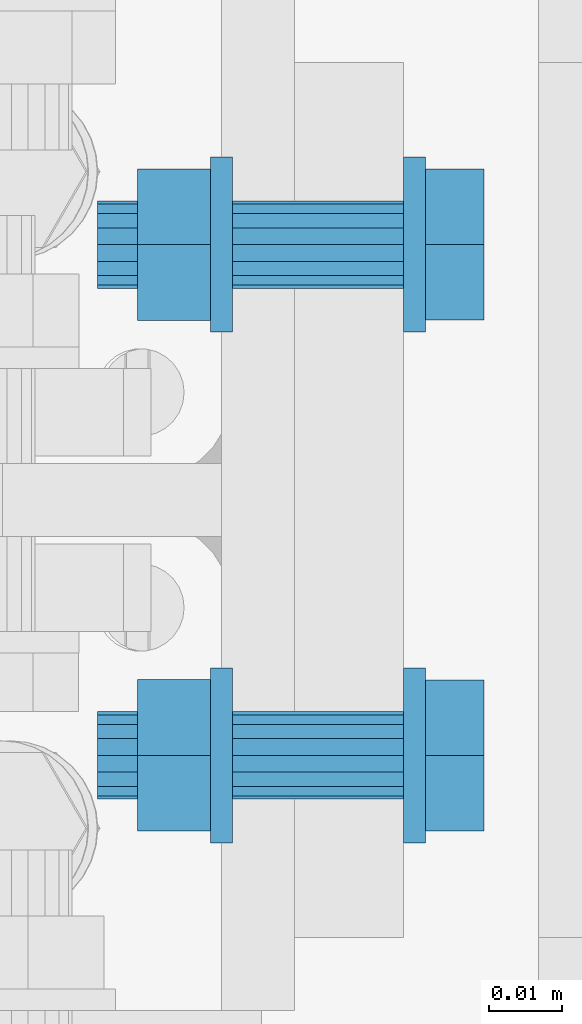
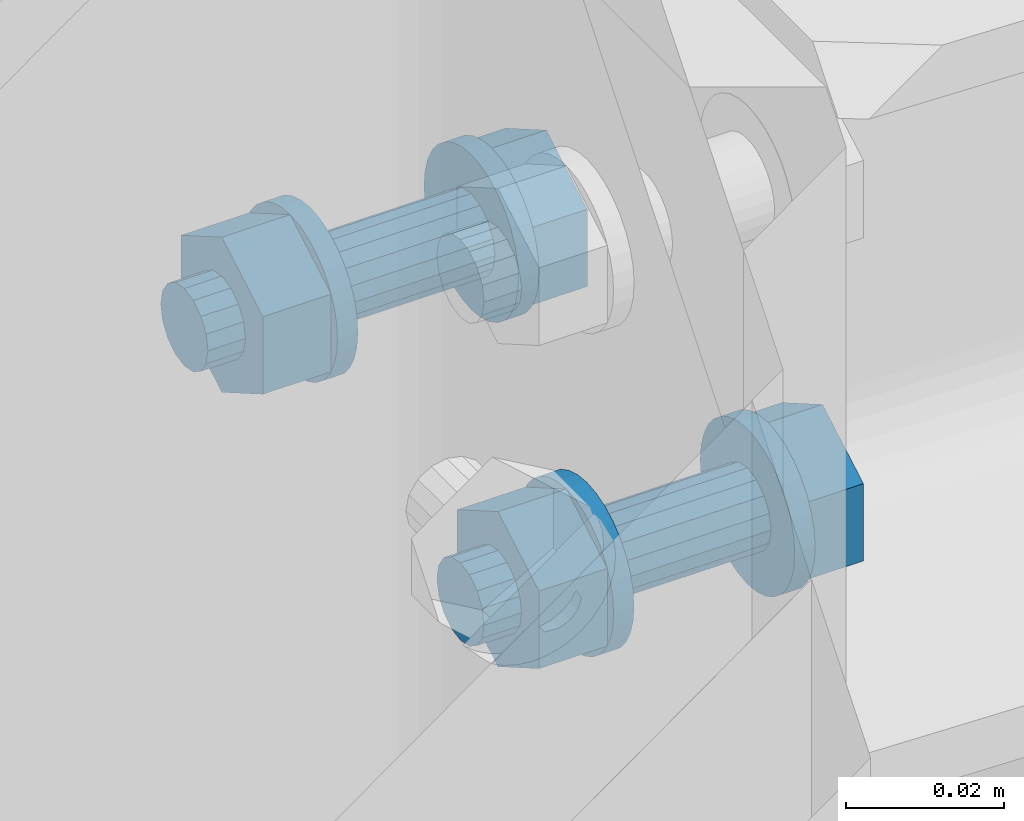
# One storey, part 333 of 476: 2 mechanical fasteners.
"""IFC2X3 building model written with IfcOpenShell, lengths in millimetres."""

from ifc_helpers import new_model, entity, si_unit, converted_unit, origin_with_axes, place, context, project, spatial, faceted_brep, element, save


model = new_model("IFC2X3")

# Units and contexts
model_context = context("Model", 3, precision=1e-09, world=origin_with_axes())
ifc_project = project(units=[si_unit("LENGTHUNIT", "METRE", prefix="MILLI"), si_unit("AREAUNIT", "SQUARE_METRE"), si_unit("VOLUMEUNIT", "CUBIC_METRE"), converted_unit("PLANEANGLEUNIT", "DEGREE", entity("IfcPlaneAngleMeasure", 0.01745329), si_unit("PLANEANGLEUNIT", "RADIAN"), dimensions=[0, 0, 0, 0, 0, 0, 0])], contexts=[model_context])

# Site, building, storey
site_placement = place(None, origin_with_axes())
site = spatial("IfcSite", under=ifc_project, at=site_placement, Name="mKR Teilneubau & Sanierung BA1 - Ostfildern", CompositionType="ELEMENT")
building_placement = place(site_placement, origin_with_axes())
building = spatial("IfcBuilding", under=site, at=building_placement, Name="Struktur 1", CompositionType="ELEMENT")
storey_placement = place(building_placement, origin_with_axes())
storey = spatial("IfcBuildingStorey", under=building, at=storey_placement, Name="Default Storey", CompositionType="ELEMENT", Elevation=0.0)

# Mechanical fasteners
mechanical_fastener_1_placement = place(None, origin_with_axes())
element("IfcMechanicalFastener", 1, at=mechanical_fastener_1_placement, inside=storey, ObjectType="Bolt#6", NominalDiameter=12.0, NominalLength=45.0, context=model_context, shape_type="Brep", body=[
    faceted_brep([(22050.108764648, -13608.67387897, 3040.630813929), (22047.108764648, -13608.67387897, 3040.630813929), (22047.108764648, -13608.904455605, 3042.971897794), (22050.108764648, -13608.904455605, 3042.971897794), (22047.108764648, -13609.58732458, 3045.223015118), (22050.108764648, -13609.58732458, 3045.223015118), (22047.108764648, -13610.696243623, 3047.297656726), (22050.108764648, -13610.696243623, 3047.297656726), (22047.108764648, -13612.188597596, 3049.116095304), (22050.108764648, -13612.188597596, 3049.116095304), (22047.108764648, -13614.007036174, 3050.608449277), (22050.108764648, -13614.007036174, 3050.608449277), (22047.108764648, -13616.081677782, 3051.717368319), (22050.108764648, -13616.081677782, 3051.717368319), (22047.108764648, -13618.332795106, 3052.400237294), (22050.108764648, -13618.332795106, 3052.400237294), (22047.108764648, -13620.67387897, 3052.630813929), (22050.108764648, -13620.67387897, 3052.630813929), (22047.108764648, -13623.014962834, 3052.400237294), (22050.108764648, -13623.014962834, 3052.400237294), (22047.108764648, -13625.266080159, 3051.717368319), (22050.108764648, -13625.266080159, 3051.717368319), (22047.108764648, -13627.340721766, 3050.608449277), (22050.108764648, -13627.340721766, 3050.608449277), (22047.108764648, -13629.159160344, 3049.116095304), (22050.108764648, -13629.159160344, 3049.116095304), (22047.108764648, -13630.651514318, 3047.297656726), (22050.108764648, -13630.651514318, 3047.297656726), (22047.108764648, -13631.76043336, 3045.223015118), (22050.108764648, -13631.76043336, 3045.223015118), (22047.108764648, -13632.443302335, 3042.971897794), (22050.108764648, -13632.443302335, 3042.971897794), (22047.108764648, -13632.67387897, 3040.630813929), (22050.108764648, -13632.67387897, 3040.630813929), (22047.108764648, -13632.443302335, 3038.289730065), (22050.108764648, -13632.443302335, 3038.289730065), (22047.108764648, -13631.76043336, 3036.038612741), (22050.108764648, -13631.76043336, 3036.038612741), (22047.108764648, -13630.651514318, 3033.963971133), (22050.108764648, -13630.651514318, 3033.963971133), (22047.108764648, -13629.159160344, 3032.145532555), (22050.108764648, -13629.159160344, 3032.145532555), (22047.108764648, -13627.340721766, 3030.653178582), (22050.108764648, -13627.340721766, 3030.653178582), (22047.108764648, -13625.266080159, 3029.544259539), (22050.108764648, -13625.266080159, 3029.544259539), (22047.108764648, -13623.014962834, 3028.861390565), (22050.108764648, -13623.014962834, 3028.861390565), (22047.108764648, -13620.67387897, 3028.630813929), (22050.108764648, -13620.67387897, 3028.630813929), (22047.108764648, -13618.332795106, 3028.861390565), (22050.108764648, -13618.332795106, 3028.861390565), (22047.108764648, -13616.081677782, 3029.544259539), (22050.108764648, -13616.081677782, 3029.544259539), (22047.108764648, -13614.007036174, 3030.653178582), (22050.108764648, -13614.007036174, 3030.653178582), (22047.108764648, -13612.188597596, 3032.145532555), (22050.108764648, -13612.188597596, 3032.145532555), (22047.108764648, -13610.696243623, 3033.963971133), (22050.108764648, -13610.696243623, 3033.963971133), (22047.108764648, -13609.58732458, 3036.038612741), (22050.108764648, -13609.58732458, 3036.038612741), (22047.108764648, -13608.904455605, 3038.289730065), (22050.108764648, -13608.904455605, 3038.289730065)], [[[0, 1, 2, 3]], [[3, 2, 4, 5]], [[5, 4, 6, 7]], [[7, 6, 8, 9]], [[9, 8, 10, 11]], [[11, 10, 12, 13]], [[13, 12, 14, 15]], [[15, 14, 16, 17]], [[17, 16, 18, 19]], [[19, 18, 20, 21]], [[21, 20, 22, 23]], [[23, 22, 24, 25]], [[25, 24, 26, 27]], [[27, 26, 28, 29]], [[29, 28, 30, 31]], [[31, 30, 32, 33]], [[33, 32, 34, 35]], [[35, 34, 36, 37]], [[37, 36, 38, 39]], [[39, 38, 40, 41]], [[41, 40, 42, 43]], [[43, 42, 44, 45]], [[45, 44, 46, 47]], [[47, 46, 48, 49]], [[49, 48, 50, 51]], [[51, 50, 52, 53]], [[53, 52, 54, 55]], [[55, 54, 56, 57]], [[57, 56, 58, 59]], [[59, 58, 60, 61]], [[61, 60, 62, 63]], [[63, 62, 1, 0]], [[0, 3, 5, 7, 9, 11, 13, 15, 17, 19, 21, 23, 25, 27, 29, 31, 33, 35, 37, 39, 41, 43, 45, 47, 49, 51, 53, 55, 57, 59, 61, 63]], [[1, 62, 60, 58, 56, 54, 52, 50, 48, 46, 44, 42, 40, 38, 36, 34, 32, 30, 28, 26, 24, 22, 20, 18, 16, 14, 12, 10, 8, 6, 4, 2]]]),
    faceted_brep([(22050.108764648, -13631.027212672, 3046.608313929), (22058.108764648, -13631.027212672, 3046.608313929), (22058.108764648, -13620.67387897, 3052.585813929), (22050.108764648, -13620.67387897, 3052.585813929), (22058.108764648, -13610.320545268, 3046.608313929), (22050.108764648, -13610.320545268, 3046.608313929), (22058.108764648, -13610.320545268, 3034.653313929), (22050.108764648, -13610.320545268, 3034.653313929), (22058.108764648, -13620.67387897, 3028.675813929), (22050.108764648, -13620.67387897, 3028.675813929), (22058.108764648, -13631.027212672, 3034.653313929), (22050.108764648, -13631.027212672, 3034.653313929)], [[[0, 1, 2, 3]], [[3, 2, 4, 5]], [[5, 4, 6, 7]], [[7, 6, 8, 9]], [[9, 8, 10, 11]], [[11, 10, 1, 0]], [[4, 2, 1, 10, 8, 6]], [[0, 3, 5, 7, 9, 11]]]),
    faceted_brep([(22047.108764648, -13614.67387897, 3040.630813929), (22023.608764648, -13614.67387897, 3040.630813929), (22023.608764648, -13615.130601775, 3042.926914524), (22047.108764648, -13615.130601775, 3042.926914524), (22023.608764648, -13616.431238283, 3044.873454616), (22047.108764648, -13616.431238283, 3044.873454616), (22023.608764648, -13618.377778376, 3046.174091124), (22047.108764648, -13618.377778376, 3046.174091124), (22023.608764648, -13620.67387897, 3046.630813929), (22047.108764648, -13620.67387897, 3046.630813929), (22023.608764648, -13622.969979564, 3046.174091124), (22047.108764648, -13622.969979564, 3046.174091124), (22023.608764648, -13624.916519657, 3044.873454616), (22047.108764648, -13624.916519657, 3044.873454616), (22023.608764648, -13626.217156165, 3042.926914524), (22047.108764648, -13626.217156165, 3042.926914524), (22023.608764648, -13626.67387897, 3040.630813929), (22047.108764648, -13626.67387897, 3040.630813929), (22023.608764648, -13626.217156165, 3038.334713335), (22047.108764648, -13626.217156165, 3038.334713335), (22023.608764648, -13624.916519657, 3036.388173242), (22047.108764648, -13624.916519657, 3036.388173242), (22023.608764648, -13622.969979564, 3035.087536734), (22047.108764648, -13622.969979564, 3035.087536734), (22023.608764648, -13620.67387897, 3034.630813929), (22047.108764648, -13620.67387897, 3034.630813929), (22023.608764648, -13618.377778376, 3035.087536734), (22047.108764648, -13618.377778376, 3035.087536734), (22023.608764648, -13616.431238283, 3036.388173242), (22047.108764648, -13616.431238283, 3036.388173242), (22023.608764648, -13615.130601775, 3038.334713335), (22047.108764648, -13615.130601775, 3038.334713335)], [[[0, 1, 2, 3]], [[3, 2, 4, 5]], [[5, 4, 6, 7]], [[7, 6, 8, 9]], [[9, 8, 10, 11]], [[11, 10, 12, 13]], [[13, 12, 14, 15]], [[15, 14, 16, 17]], [[17, 16, 18, 19]], [[19, 18, 20, 21]], [[21, 20, 22, 23]], [[23, 22, 24, 25]], [[25, 24, 26, 27]], [[27, 26, 28, 29]], [[29, 28, 30, 31]], [[31, 30, 1, 0]], [[0, 3, 5, 7, 9, 11, 13, 15, 17, 19, 21, 23, 25, 27, 29, 31]], [[1, 30, 28, 26, 24, 22, 20, 18, 16, 14, 12, 10, 8, 6, 4, 2]]]),
    faceted_brep([(22023.608764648, -13608.67387897, 3040.630813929), (22020.608764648, -13608.67387897, 3040.630813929), (22020.608764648, -13608.904455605, 3042.971897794), (22023.608764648, -13608.904455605, 3042.971897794), (22020.608764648, -13609.58732458, 3045.223015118), (22023.608764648, -13609.58732458, 3045.223015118), (22020.608764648, -13610.696243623, 3047.297656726), (22023.608764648, -13610.696243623, 3047.297656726), (22020.608764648, -13612.188597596, 3049.116095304), (22023.608764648, -13612.188597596, 3049.116095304), (22020.608764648, -13614.007036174, 3050.608449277), (22023.608764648, -13614.007036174, 3050.608449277), (22020.608764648, -13616.081677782, 3051.717368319), (22023.608764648, -13616.081677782, 3051.717368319), (22020.608764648, -13618.332795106, 3052.400237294), (22023.608764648, -13618.332795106, 3052.400237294), (22020.608764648, -13620.67387897, 3052.630813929), (22023.608764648, -13620.67387897, 3052.630813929), (22020.608764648, -13623.014962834, 3052.400237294), (22023.608764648, -13623.014962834, 3052.400237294), (22020.608764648, -13625.266080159, 3051.717368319), (22023.608764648, -13625.266080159, 3051.717368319), (22020.608764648, -13627.340721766, 3050.608449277), (22023.608764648, -13627.340721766, 3050.608449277), (22020.608764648, -13629.159160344, 3049.116095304), (22023.608764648, -13629.159160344, 3049.116095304), (22020.608764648, -13630.651514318, 3047.297656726), (22023.608764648, -13630.651514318, 3047.297656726), (22020.608764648, -13631.76043336, 3045.223015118), (22023.608764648, -13631.76043336, 3045.223015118), (22020.608764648, -13632.443302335, 3042.971897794), (22023.608764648, -13632.443302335, 3042.971897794), (22020.608764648, -13632.67387897, 3040.630813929), (22023.608764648, -13632.67387897, 3040.630813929), (22020.608764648, -13632.443302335, 3038.289730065), (22023.608764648, -13632.443302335, 3038.289730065), (22020.608764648, -13631.76043336, 3036.038612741), (22023.608764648, -13631.76043336, 3036.038612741), (22020.608764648, -13630.651514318, 3033.963971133), (22023.608764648, -13630.651514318, 3033.963971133), (22020.608764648, -13629.159160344, 3032.145532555), (22023.608764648, -13629.159160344, 3032.145532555), (22020.608764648, -13627.340721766, 3030.653178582), (22023.608764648, -13627.340721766, 3030.653178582), (22020.608764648, -13625.266080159, 3029.544259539), (22023.608764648, -13625.266080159, 3029.544259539), (22020.608764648, -13623.014962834, 3028.861390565), (22023.608764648, -13623.014962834, 3028.861390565), (22020.608764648, -13620.67387897, 3028.630813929), (22023.608764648, -13620.67387897, 3028.630813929), (22020.608764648, -13618.332795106, 3028.861390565), (22023.608764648, -13618.332795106, 3028.861390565), (22020.608764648, -13616.081677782, 3029.544259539), (22023.608764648, -13616.081677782, 3029.544259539), (22020.608764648, -13614.007036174, 3030.653178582), (22023.608764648, -13614.007036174, 3030.653178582), (22020.608764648, -13612.188597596, 3032.145532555), (22023.608764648, -13612.188597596, 3032.145532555), (22020.608764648, -13610.696243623, 3033.963971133), (22023.608764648, -13610.696243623, 3033.963971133), (22020.608764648, -13609.58732458, 3036.038612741), (22023.608764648, -13609.58732458, 3036.038612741), (22020.608764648, -13608.904455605, 3038.289730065), (22023.608764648, -13608.904455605, 3038.289730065)], [[[0, 1, 2, 3]], [[3, 2, 4, 5]], [[5, 4, 6, 7]], [[7, 6, 8, 9]], [[9, 8, 10, 11]], [[11, 10, 12, 13]], [[13, 12, 14, 15]], [[15, 14, 16, 17]], [[17, 16, 18, 19]], [[19, 18, 20, 21]], [[21, 20, 22, 23]], [[23, 22, 24, 25]], [[25, 24, 26, 27]], [[27, 26, 28, 29]], [[29, 28, 30, 31]], [[31, 30, 32, 33]], [[33, 32, 34, 35]], [[35, 34, 36, 37]], [[37, 36, 38, 39]], [[39, 38, 40, 41]], [[41, 40, 42, 43]], [[43, 42, 44, 45]], [[45, 44, 46, 47]], [[47, 46, 48, 49]], [[49, 48, 50, 51]], [[51, 50, 52, 53]], [[53, 52, 54, 55]], [[55, 54, 56, 57]], [[57, 56, 58, 59]], [[59, 58, 60, 61]], [[61, 60, 62, 63]], [[63, 62, 1, 0]], [[0, 3, 5, 7, 9, 11, 13, 15, 17, 19, 21, 23, 25, 27, 29, 31, 33, 35, 37, 39, 41, 43, 45, 47, 49, 51, 53, 55, 57, 59, 61, 63]], [[1, 62, 60, 58, 56, 54, 52, 50, 48, 46, 44, 42, 40, 38, 36, 34, 32, 30, 28, 26, 24, 22, 20, 18, 16, 14, 12, 10, 8, 6, 4, 2]]]),
    faceted_brep([(22010.608764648, -13631.066183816, 3046.630813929), (22020.608764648, -13631.066183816, 3046.630813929), (22020.608764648, -13620.67387897, 3052.630813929), (22010.608764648, -13620.67387897, 3052.630813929), (22020.608764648, -13610.281574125, 3046.630813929), (22010.608764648, -13610.281574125, 3046.630813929), (22020.608764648, -13610.281574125, 3034.630813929), (22010.608764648, -13610.281574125, 3034.630813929), (22020.608764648, -13620.67387897, 3028.630813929), (22010.608764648, -13620.67387897, 3028.630813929), (22020.608764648, -13631.066183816, 3034.630813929), (22010.608764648, -13631.066183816, 3034.630813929)], [[[0, 1, 2, 3]], [[3, 2, 4, 5]], [[5, 4, 6, 7]], [[7, 6, 8, 9]], [[9, 8, 10, 11]], [[11, 10, 1, 0]], [[4, 2, 1, 10, 8, 6]], [[0, 3, 5, 7, 9, 11]]]),
    faceted_brep([(22010.608764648, -13614.67387897, 3040.630813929), (22005.108764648, -13614.67387897, 3040.630813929), (22005.108764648, -13615.130601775, 3042.926914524), (22010.608764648, -13615.130601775, 3042.926914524), (22005.108764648, -13616.431238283, 3044.873454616), (22010.608764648, -13616.431238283, 3044.873454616), (22005.108764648, -13618.377778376, 3046.174091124), (22010.608764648, -13618.377778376, 3046.174091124), (22005.108764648, -13620.67387897, 3046.630813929), (22010.608764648, -13620.67387897, 3046.630813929), (22005.108764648, -13622.969979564, 3046.174091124), (22010.608764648, -13622.969979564, 3046.174091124), (22005.108764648, -13624.916519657, 3044.873454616), (22010.608764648, -13624.916519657, 3044.873454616), (22005.108764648, -13626.217156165, 3042.926914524), (22010.608764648, -13626.217156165, 3042.926914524), (22005.108764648, -13626.67387897, 3040.630813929), (22010.608764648, -13626.67387897, 3040.630813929), (22005.108764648, -13626.217156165, 3038.334713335), (22010.608764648, -13626.217156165, 3038.334713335), (22005.108764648, -13624.916519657, 3036.388173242), (22010.608764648, -13624.916519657, 3036.388173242), (22005.108764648, -13622.969979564, 3035.087536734), (22010.608764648, -13622.969979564, 3035.087536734), (22005.108764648, -13620.67387897, 3034.630813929), (22010.608764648, -13620.67387897, 3034.630813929), (22005.108764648, -13618.377778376, 3035.087536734), (22010.608764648, -13618.377778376, 3035.087536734), (22005.108764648, -13616.431238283, 3036.388173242), (22010.608764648, -13616.431238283, 3036.388173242), (22005.108764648, -13615.130601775, 3038.334713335), (22010.608764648, -13615.130601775, 3038.334713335)], [[[0, 1, 2, 3]], [[3, 2, 4, 5]], [[5, 4, 6, 7]], [[7, 6, 8, 9]], [[9, 8, 10, 11]], [[11, 10, 12, 13]], [[13, 12, 14, 15]], [[15, 14, 16, 17]], [[17, 16, 18, 19]], [[19, 18, 20, 21]], [[21, 20, 22, 23]], [[23, 22, 24, 25]], [[25, 24, 26, 27]], [[27, 26, 28, 29]], [[29, 28, 30, 31]], [[31, 30, 1, 0]], [[0, 3, 5, 7, 9, 11, 13, 15, 17, 19, 21, 23, 25, 27, 29, 31]], [[1, 30, 28, 26, 24, 22, 20, 18, 16, 14, 12, 10, 8, 6, 4, 2]]]),
])
mechanical_fastener_2_placement = place(None, origin_with_axes())
element("IfcMechanicalFastener", 2, at=mechanical_fastener_2_placement, inside=storey, ObjectType="Bolt#5", NominalDiameter=12.0, NominalLength=45.0, context=model_context, shape_type="Brep", body=[
    faceted_brep([(22050.108764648, -13562.67387897, 3040.630813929), (22047.108764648, -13562.67387897, 3040.630813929), (22047.108764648, -13562.443302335, 3038.289730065), (22050.108764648, -13562.443302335, 3038.289730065), (22047.108764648, -13561.76043336, 3036.038612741), (22050.108764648, -13561.76043336, 3036.038612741), (22047.108764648, -13560.651514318, 3033.963971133), (22050.108764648, -13560.651514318, 3033.963971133), (22047.108764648, -13559.159160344, 3032.145532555), (22050.108764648, -13559.159160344, 3032.145532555), (22047.108764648, -13557.340721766, 3030.653178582), (22050.108764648, -13557.340721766, 3030.653178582), (22047.108764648, -13555.266080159, 3029.544259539), (22050.108764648, -13555.266080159, 3029.544259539), (22047.108764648, -13553.014962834, 3028.861390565), (22050.108764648, -13553.014962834, 3028.861390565), (22047.108764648, -13550.67387897, 3028.630813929), (22050.108764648, -13550.67387897, 3028.630813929), (22047.108764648, -13548.332795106, 3028.861390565), (22050.108764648, -13548.332795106, 3028.861390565), (22047.108764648, -13546.081677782, 3029.544259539), (22050.108764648, -13546.081677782, 3029.544259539), (22047.108764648, -13544.007036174, 3030.653178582), (22050.108764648, -13544.007036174, 3030.653178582), (22047.108764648, -13542.188597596, 3032.145532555), (22050.108764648, -13542.188597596, 3032.145532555), (22047.108764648, -13540.696243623, 3033.963971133), (22050.108764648, -13540.696243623, 3033.963971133), (22047.108764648, -13539.58732458, 3036.038612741), (22050.108764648, -13539.58732458, 3036.038612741), (22047.108764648, -13538.904455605, 3038.289730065), (22050.108764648, -13538.904455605, 3038.289730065), (22047.108764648, -13538.67387897, 3040.630813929), (22050.108764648, -13538.67387897, 3040.630813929), (22047.108764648, -13538.904455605, 3042.971897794), (22050.108764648, -13538.904455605, 3042.971897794), (22047.108764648, -13539.58732458, 3045.223015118), (22050.108764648, -13539.58732458, 3045.223015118), (22047.108764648, -13540.696243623, 3047.297656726), (22050.108764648, -13540.696243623, 3047.297656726), (22047.108764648, -13542.188597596, 3049.116095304), (22050.108764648, -13542.188597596, 3049.116095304), (22047.108764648, -13544.007036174, 3050.608449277), (22050.108764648, -13544.007036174, 3050.608449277), (22047.108764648, -13546.081677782, 3051.717368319), (22050.108764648, -13546.081677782, 3051.717368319), (22047.108764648, -13548.332795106, 3052.400237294), (22050.108764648, -13548.332795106, 3052.400237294), (22047.108764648, -13550.67387897, 3052.630813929), (22050.108764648, -13550.67387897, 3052.630813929), (22047.108764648, -13553.014962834, 3052.400237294), (22050.108764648, -13553.014962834, 3052.400237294), (22047.108764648, -13555.266080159, 3051.717368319), (22050.108764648, -13555.266080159, 3051.717368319), (22047.108764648, -13557.340721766, 3050.608449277), (22050.108764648, -13557.340721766, 3050.608449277), (22047.108764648, -13559.159160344, 3049.116095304), (22050.108764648, -13559.159160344, 3049.116095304), (22047.108764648, -13560.651514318, 3047.297656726), (22050.108764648, -13560.651514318, 3047.297656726), (22047.108764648, -13561.76043336, 3045.223015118), (22050.108764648, -13561.76043336, 3045.223015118), (22047.108764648, -13562.443302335, 3042.971897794), (22050.108764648, -13562.443302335, 3042.971897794)], [[[0, 1, 2, 3]], [[3, 2, 4, 5]], [[5, 4, 6, 7]], [[7, 6, 8, 9]], [[9, 8, 10, 11]], [[11, 10, 12, 13]], [[13, 12, 14, 15]], [[15, 14, 16, 17]], [[17, 16, 18, 19]], [[19, 18, 20, 21]], [[21, 20, 22, 23]], [[23, 22, 24, 25]], [[25, 24, 26, 27]], [[27, 26, 28, 29]], [[29, 28, 30, 31]], [[31, 30, 32, 33]], [[33, 32, 34, 35]], [[35, 34, 36, 37]], [[37, 36, 38, 39]], [[39, 38, 40, 41]], [[41, 40, 42, 43]], [[43, 42, 44, 45]], [[45, 44, 46, 47]], [[47, 46, 48, 49]], [[49, 48, 50, 51]], [[51, 50, 52, 53]], [[53, 52, 54, 55]], [[55, 54, 56, 57]], [[57, 56, 58, 59]], [[59, 58, 60, 61]], [[61, 60, 62, 63]], [[63, 62, 1, 0]], [[0, 3, 5, 7, 9, 11, 13, 15, 17, 19, 21, 23, 25, 27, 29, 31, 33, 35, 37, 39, 41, 43, 45, 47, 49, 51, 53, 55, 57, 59, 61, 63]], [[1, 62, 60, 58, 56, 54, 52, 50, 48, 46, 44, 42, 40, 38, 36, 34, 32, 30, 28, 26, 24, 22, 20, 18, 16, 14, 12, 10, 8, 6, 4, 2]]]),
    faceted_brep([(22050.108764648, -13540.320545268, 3034.653313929), (22058.108764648, -13540.320545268, 3034.653313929), (22058.108764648, -13550.67387897, 3028.675813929), (22050.108764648, -13550.67387897, 3028.675813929), (22058.108764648, -13561.027212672, 3034.653313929), (22050.108764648, -13561.027212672, 3034.653313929), (22058.108764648, -13561.027212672, 3046.608313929), (22050.108764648, -13561.027212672, 3046.608313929), (22058.108764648, -13550.67387897, 3052.585813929), (22050.108764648, -13550.67387897, 3052.585813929), (22058.108764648, -13540.320545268, 3046.608313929), (22050.108764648, -13540.320545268, 3046.608313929)], [[[0, 1, 2, 3]], [[3, 2, 4, 5]], [[5, 4, 6, 7]], [[7, 6, 8, 9]], [[9, 8, 10, 11]], [[11, 10, 1, 0]], [[4, 2, 1, 10, 8, 6]], [[0, 3, 5, 7, 9, 11]]]),
    faceted_brep([(22047.108764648, -13556.67387897, 3040.630813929), (22023.608764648, -13556.67387897, 3040.630813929), (22023.608764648, -13556.217156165, 3038.334713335), (22047.108764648, -13556.217156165, 3038.334713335), (22023.608764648, -13554.916519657, 3036.388173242), (22047.108764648, -13554.916519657, 3036.388173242), (22023.608764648, -13552.969979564, 3035.087536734), (22047.108764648, -13552.969979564, 3035.087536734), (22023.608764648, -13550.67387897, 3034.630813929), (22047.108764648, -13550.67387897, 3034.630813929), (22023.608764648, -13548.377778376, 3035.087536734), (22047.108764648, -13548.377778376, 3035.087536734), (22023.608764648, -13546.431238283, 3036.388173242), (22047.108764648, -13546.431238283, 3036.388173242), (22023.608764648, -13545.130601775, 3038.334713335), (22047.108764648, -13545.130601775, 3038.334713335), (22023.608764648, -13544.67387897, 3040.630813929), (22047.108764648, -13544.67387897, 3040.630813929), (22023.608764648, -13545.130601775, 3042.926914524), (22047.108764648, -13545.130601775, 3042.926914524), (22023.608764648, -13546.431238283, 3044.873454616), (22047.108764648, -13546.431238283, 3044.873454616), (22023.608764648, -13548.377778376, 3046.174091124), (22047.108764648, -13548.377778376, 3046.174091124), (22023.608764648, -13550.67387897, 3046.630813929), (22047.108764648, -13550.67387897, 3046.630813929), (22023.608764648, -13552.969979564, 3046.174091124), (22047.108764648, -13552.969979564, 3046.174091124), (22023.608764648, -13554.916519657, 3044.873454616), (22047.108764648, -13554.916519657, 3044.873454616), (22023.608764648, -13556.217156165, 3042.926914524), (22047.108764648, -13556.217156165, 3042.926914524)], [[[0, 1, 2, 3]], [[3, 2, 4, 5]], [[5, 4, 6, 7]], [[7, 6, 8, 9]], [[9, 8, 10, 11]], [[11, 10, 12, 13]], [[13, 12, 14, 15]], [[15, 14, 16, 17]], [[17, 16, 18, 19]], [[19, 18, 20, 21]], [[21, 20, 22, 23]], [[23, 22, 24, 25]], [[25, 24, 26, 27]], [[27, 26, 28, 29]], [[29, 28, 30, 31]], [[31, 30, 1, 0]], [[0, 3, 5, 7, 9, 11, 13, 15, 17, 19, 21, 23, 25, 27, 29, 31]], [[1, 30, 28, 26, 24, 22, 20, 18, 16, 14, 12, 10, 8, 6, 4, 2]]]),
    faceted_brep([(22023.608764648, -13562.67387897, 3040.630813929), (22020.608764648, -13562.67387897, 3040.630813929), (22020.608764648, -13562.443302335, 3038.289730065), (22023.608764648, -13562.443302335, 3038.289730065), (22020.608764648, -13561.76043336, 3036.038612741), (22023.608764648, -13561.76043336, 3036.038612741), (22020.608764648, -13560.651514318, 3033.963971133), (22023.608764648, -13560.651514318, 3033.963971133), (22020.608764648, -13559.159160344, 3032.145532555), (22023.608764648, -13559.159160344, 3032.145532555), (22020.608764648, -13557.340721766, 3030.653178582), (22023.608764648, -13557.340721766, 3030.653178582), (22020.608764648, -13555.266080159, 3029.544259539), (22023.608764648, -13555.266080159, 3029.544259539), (22020.608764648, -13553.014962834, 3028.861390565), (22023.608764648, -13553.014962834, 3028.861390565), (22020.608764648, -13550.67387897, 3028.630813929), (22023.608764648, -13550.67387897, 3028.630813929), (22020.608764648, -13548.332795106, 3028.861390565), (22023.608764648, -13548.332795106, 3028.861390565), (22020.608764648, -13546.081677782, 3029.544259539), (22023.608764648, -13546.081677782, 3029.544259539), (22020.608764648, -13544.007036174, 3030.653178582), (22023.608764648, -13544.007036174, 3030.653178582), (22020.608764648, -13542.188597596, 3032.145532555), (22023.608764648, -13542.188597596, 3032.145532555), (22020.608764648, -13540.696243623, 3033.963971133), (22023.608764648, -13540.696243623, 3033.963971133), (22020.608764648, -13539.58732458, 3036.038612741), (22023.608764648, -13539.58732458, 3036.038612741), (22020.608764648, -13538.904455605, 3038.289730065), (22023.608764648, -13538.904455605, 3038.289730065), (22020.608764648, -13538.67387897, 3040.630813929), (22023.608764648, -13538.67387897, 3040.630813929), (22020.608764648, -13538.904455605, 3042.971897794), (22023.608764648, -13538.904455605, 3042.971897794), (22020.608764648, -13539.58732458, 3045.223015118), (22023.608764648, -13539.58732458, 3045.223015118), (22020.608764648, -13540.696243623, 3047.297656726), (22023.608764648, -13540.696243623, 3047.297656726), (22020.608764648, -13542.188597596, 3049.116095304), (22023.608764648, -13542.188597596, 3049.116095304), (22020.608764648, -13544.007036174, 3050.608449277), (22023.608764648, -13544.007036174, 3050.608449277), (22020.608764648, -13546.081677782, 3051.717368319), (22023.608764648, -13546.081677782, 3051.717368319), (22020.608764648, -13548.332795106, 3052.400237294), (22023.608764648, -13548.332795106, 3052.400237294), (22020.608764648, -13550.67387897, 3052.630813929), (22023.608764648, -13550.67387897, 3052.630813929), (22020.608764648, -13553.014962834, 3052.400237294), (22023.608764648, -13553.014962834, 3052.400237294), (22020.608764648, -13555.266080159, 3051.717368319), (22023.608764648, -13555.266080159, 3051.717368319), (22020.608764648, -13557.340721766, 3050.608449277), (22023.608764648, -13557.340721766, 3050.608449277), (22020.608764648, -13559.159160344, 3049.116095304), (22023.608764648, -13559.159160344, 3049.116095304), (22020.608764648, -13560.651514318, 3047.297656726), (22023.608764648, -13560.651514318, 3047.297656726), (22020.608764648, -13561.76043336, 3045.223015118), (22023.608764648, -13561.76043336, 3045.223015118), (22020.608764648, -13562.443302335, 3042.971897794), (22023.608764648, -13562.443302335, 3042.971897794)], [[[0, 1, 2, 3]], [[3, 2, 4, 5]], [[5, 4, 6, 7]], [[7, 6, 8, 9]], [[9, 8, 10, 11]], [[11, 10, 12, 13]], [[13, 12, 14, 15]], [[15, 14, 16, 17]], [[17, 16, 18, 19]], [[19, 18, 20, 21]], [[21, 20, 22, 23]], [[23, 22, 24, 25]], [[25, 24, 26, 27]], [[27, 26, 28, 29]], [[29, 28, 30, 31]], [[31, 30, 32, 33]], [[33, 32, 34, 35]], [[35, 34, 36, 37]], [[37, 36, 38, 39]], [[39, 38, 40, 41]], [[41, 40, 42, 43]], [[43, 42, 44, 45]], [[45, 44, 46, 47]], [[47, 46, 48, 49]], [[49, 48, 50, 51]], [[51, 50, 52, 53]], [[53, 52, 54, 55]], [[55, 54, 56, 57]], [[57, 56, 58, 59]], [[59, 58, 60, 61]], [[61, 60, 62, 63]], [[63, 62, 1, 0]], [[0, 3, 5, 7, 9, 11, 13, 15, 17, 19, 21, 23, 25, 27, 29, 31, 33, 35, 37, 39, 41, 43, 45, 47, 49, 51, 53, 55, 57, 59, 61, 63]], [[1, 62, 60, 58, 56, 54, 52, 50, 48, 46, 44, 42, 40, 38, 36, 34, 32, 30, 28, 26, 24, 22, 20, 18, 16, 14, 12, 10, 8, 6, 4, 2]]]),
    faceted_brep([(22010.608764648, -13540.281574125, 3034.630813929), (22020.608764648, -13540.281574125, 3034.630813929), (22020.608764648, -13550.67387897, 3028.630813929), (22010.608764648, -13550.67387897, 3028.630813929), (22020.608764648, -13561.066183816, 3034.630813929), (22010.608764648, -13561.066183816, 3034.630813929), (22020.608764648, -13561.066183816, 3046.630813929), (22010.608764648, -13561.066183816, 3046.630813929), (22020.608764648, -13550.67387897, 3052.630813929), (22010.608764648, -13550.67387897, 3052.630813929), (22020.608764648, -13540.281574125, 3046.630813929), (22010.608764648, -13540.281574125, 3046.630813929)], [[[0, 1, 2, 3]], [[3, 2, 4, 5]], [[5, 4, 6, 7]], [[7, 6, 8, 9]], [[9, 8, 10, 11]], [[11, 10, 1, 0]], [[4, 2, 1, 10, 8, 6]], [[0, 3, 5, 7, 9, 11]]]),
    faceted_brep([(22010.608764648, -13556.67387897, 3040.630813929), (22005.108764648, -13556.67387897, 3040.630813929), (22005.108764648, -13556.217156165, 3038.334713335), (22010.608764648, -13556.217156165, 3038.334713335), (22005.108764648, -13554.916519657, 3036.388173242), (22010.608764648, -13554.916519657, 3036.388173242), (22005.108764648, -13552.969979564, 3035.087536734), (22010.608764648, -13552.969979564, 3035.087536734), (22005.108764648, -13550.67387897, 3034.630813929), (22010.608764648, -13550.67387897, 3034.630813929), (22005.108764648, -13548.377778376, 3035.087536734), (22010.608764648, -13548.377778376, 3035.087536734), (22005.108764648, -13546.431238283, 3036.388173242), (22010.608764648, -13546.431238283, 3036.388173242), (22005.108764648, -13545.130601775, 3038.334713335), (22010.608764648, -13545.130601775, 3038.334713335), (22005.108764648, -13544.67387897, 3040.630813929), (22010.608764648, -13544.67387897, 3040.630813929), (22005.108764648, -13545.130601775, 3042.926914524), (22010.608764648, -13545.130601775, 3042.926914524), (22005.108764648, -13546.431238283, 3044.873454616), (22010.608764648, -13546.431238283, 3044.873454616), (22005.108764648, -13548.377778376, 3046.174091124), (22010.608764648, -13548.377778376, 3046.174091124), (22005.108764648, -13550.67387897, 3046.630813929), (22010.608764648, -13550.67387897, 3046.630813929), (22005.108764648, -13552.969979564, 3046.174091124), (22010.608764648, -13552.969979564, 3046.174091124), (22005.108764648, -13554.916519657, 3044.873454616), (22010.608764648, -13554.916519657, 3044.873454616), (22005.108764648, -13556.217156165, 3042.926914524), (22010.608764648, -13556.217156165, 3042.926914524)], [[[0, 1, 2, 3]], [[3, 2, 4, 5]], [[5, 4, 6, 7]], [[7, 6, 8, 9]], [[9, 8, 10, 11]], [[11, 10, 12, 13]], [[13, 12, 14, 15]], [[15, 14, 16, 17]], [[17, 16, 18, 19]], [[19, 18, 20, 21]], [[21, 20, 22, 23]], [[23, 22, 24, 25]], [[25, 24, 26, 27]], [[27, 26, 28, 29]], [[29, 28, 30, 31]], [[31, 30, 1, 0]], [[0, 3, 5, 7, 9, 11, 13, 15, 17, 19, 21, 23, 25, 27, 29, 31]], [[1, 30, 28, 26, 24, 22, 20, 18, 16, 14, 12, 10, 8, 6, 4, 2]]]),
])

save(model, "model.ifc")
